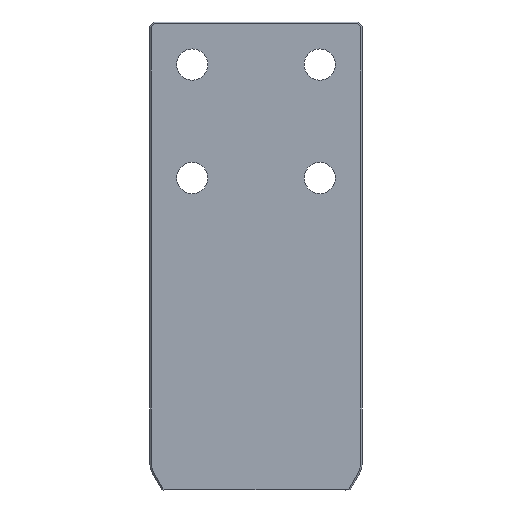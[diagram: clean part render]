
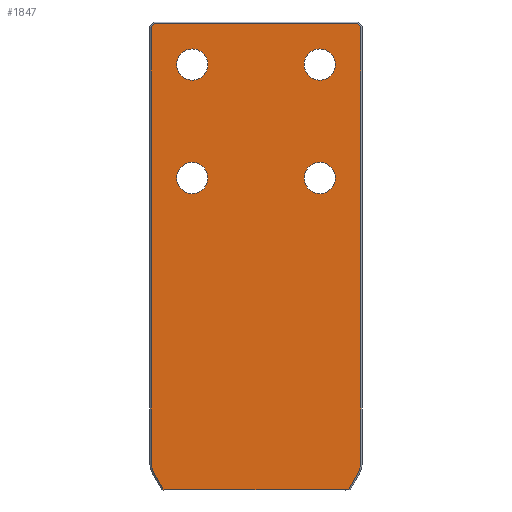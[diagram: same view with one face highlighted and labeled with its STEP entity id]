
A CAD part, front view. The second image highlights one B-rep face of the part: STEP entity #1847.
In plain terms, the highlighted planar face has unit normal (0, -1, 0).
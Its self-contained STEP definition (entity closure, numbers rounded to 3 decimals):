
#126=VERTEX_POINT(' ',#127);
#127=CARTESIAN_POINT('',(45.,-50.,-121.));
#128=VERTEX_POINT(' ',#129);
#129=CARTESIAN_POINT('',(45.,-50.,-99.));
#134=VERTEX_POINT(' ',#135);
#135=CARTESIAN_POINT('',(-45.,-50.,-41.));
#136=VERTEX_POINT(' ',#137);
#137=CARTESIAN_POINT('',(-45.,-50.,-19.));
#142=VERTEX_POINT(' ',#143);
#143=CARTESIAN_POINT('',(45.,-50.,-41.));
#144=VERTEX_POINT(' ',#145);
#145=CARTESIAN_POINT('',(45.,-50.,-19.));
#150=VERTEX_POINT(' ',#151);
#151=CARTESIAN_POINT('',(-45.,-50.,-121.));
#152=VERTEX_POINT(' ',#153);
#153=CARTESIAN_POINT('',(-45.,-50.,-99.));
#236=VERTEX_POINT(' ',#237);
#237=CARTESIAN_POINT('',(65.185,-50.,-330.));
#238=VERTEX_POINT(' ',#239);
#239=CARTESIAN_POINT('',(71.454,-50.,-319.141));
#240=VERTEX_POINT(' ',#241);
#241=CARTESIAN_POINT('',(74.,-50.,-309.641));
#242=VERTEX_POINT(' ',#243);
#243=CARTESIAN_POINT('',(74.,-50.,-140.));
#244=VERTEX_POINT(' ',#245);
#245=CARTESIAN_POINT('',(74.,-50.,-3.414));
#248=VERTEX_POINT(' ',#249);
#249=CARTESIAN_POINT('',(71.586,-50.,-1.));
#252=VERTEX_POINT(' ',#253);
#253=CARTESIAN_POINT('',(-71.586,-50.,-1.));
#256=VERTEX_POINT(' ',#257);
#257=CARTESIAN_POINT('',(-74.,-50.,-3.414));
#266=VERTEX_POINT(' ',#267);
#267=CARTESIAN_POINT('',(-65.185,-50.,-330.));
#268=VERTEX_POINT(' ',#269);
#269=CARTESIAN_POINT('',(-74.,-50.,-140.));
#270=VERTEX_POINT(' ',#271);
#271=CARTESIAN_POINT('',(-74.,-50.,-309.641));
#272=VERTEX_POINT(' ',#273);
#273=CARTESIAN_POINT('',(-71.454,-50.,-319.141));
#274=CIRCLE('',#275,11.);
#275=AXIS2_PLACEMENT_3D('',#276,#277,#278);
#276=CARTESIAN_POINT('',(45.,-50.,-110.));
#277=DIRECTION('',(0.,-1.,0.));
#278=DIRECTION('',(-1.,0.,0.));
#279=EDGE_CURVE(' ',#126,#128,#274,.T.);
#296=CIRCLE('',#297,11.);
#297=AXIS2_PLACEMENT_3D('',#298,#299,#300);
#298=CARTESIAN_POINT('',(45.,-50.,-110.));
#299=DIRECTION('',(0.,-1.,0.));
#300=DIRECTION('',(1.,0.,0.));
#301=EDGE_CURVE(' ',#128,#126,#296,.T.);
#308=CIRCLE('',#309,11.);
#309=AXIS2_PLACEMENT_3D('',#310,#311,#312);
#310=CARTESIAN_POINT('',(-45.,-50.,-30.));
#311=DIRECTION('',(0.,-1.,0.));
#312=DIRECTION('',(-1.,0.,0.));
#313=EDGE_CURVE(' ',#134,#136,#308,.T.);
#330=CIRCLE('',#331,11.);
#331=AXIS2_PLACEMENT_3D('',#332,#333,#334);
#332=CARTESIAN_POINT('',(-45.,-50.,-30.));
#333=DIRECTION('',(0.,-1.,0.));
#334=DIRECTION('',(1.,0.,0.));
#335=EDGE_CURVE(' ',#136,#134,#330,.T.);
#342=CIRCLE('',#343,11.);
#343=AXIS2_PLACEMENT_3D('',#344,#345,#346);
#344=CARTESIAN_POINT('',(45.,-50.,-30.));
#345=DIRECTION('',(0.,1.,0.));
#346=DIRECTION('',(-1.,0.,0.));
#347=EDGE_CURVE(' ',#142,#144,#342,.F.);
#364=CIRCLE('',#365,11.);
#365=AXIS2_PLACEMENT_3D('',#366,#367,#368);
#366=CARTESIAN_POINT('',(45.,-50.,-30.));
#367=DIRECTION('',(0.,1.,0.));
#368=DIRECTION('',(1.,0.,0.));
#369=EDGE_CURVE(' ',#144,#142,#364,.F.);
#376=CIRCLE('',#377,11.);
#377=AXIS2_PLACEMENT_3D('',#378,#379,#380);
#378=CARTESIAN_POINT('',(-45.,-50.,-110.));
#379=DIRECTION('',(0.,1.,0.));
#380=DIRECTION('',(-1.,0.,0.));
#381=EDGE_CURVE(' ',#150,#152,#376,.F.);
#398=CIRCLE('',#399,11.);
#399=AXIS2_PLACEMENT_3D('',#400,#401,#402);
#400=CARTESIAN_POINT('',(-45.,-50.,-110.));
#401=DIRECTION('',(0.,1.,0.));
#402=DIRECTION('',(1.,0.,0.));
#403=EDGE_CURVE(' ',#152,#150,#398,.F.);
#795=LINE('',#796,#797);
#796=CARTESIAN_POINT('',(71.454,-50.,-319.141));
#797=VECTOR('',#798,1.);
#798=DIRECTION('',(-0.5,0.,-0.866));
#799=EDGE_CURVE(' ',#238,#236,#795,.T.);
#805=CIRCLE('',#806,19.);
#806=AXIS2_PLACEMENT_3D('',#807,#808,#809);
#807=CARTESIAN_POINT('',(55.,-50.,-309.641));
#808=DIRECTION('',(0.,1.,0.));
#809=DIRECTION('',(-0.966,0.,0.259));
#810=EDGE_CURVE(' ',#240,#238,#805,.T.);
#816=LINE('',#817,#818);
#817=CARTESIAN_POINT('',(74.,-50.,-140.));
#818=VECTOR('',#819,1.);
#819=DIRECTION('',(0.,0.,-1.));
#820=EDGE_CURVE(' ',#242,#240,#816,.T.);
#826=LINE('',#827,#828);
#827=CARTESIAN_POINT('',(74.,-50.,2.657));
#828=VECTOR('',#829,1.);
#829=DIRECTION('',(0.,0.,-1.));
#830=EDGE_CURVE(' ',#244,#242,#826,.T.);
#846=LINE('',#847,#848);
#847=CARTESIAN_POINT('',(67.293,-50.,3.293));
#848=VECTOR('',#849,1.);
#849=DIRECTION('',(0.707,0.,-0.707));
#850=EDGE_CURVE(' ',#248,#244,#846,.T.);
#866=LINE('',#867,#868);
#867=CARTESIAN_POINT('',(-77.657,-50.,-1.));
#868=VECTOR('',#869,1.);
#869=DIRECTION('',(1.,0.,0.));
#870=EDGE_CURVE(' ',#252,#248,#866,.T.);
#886=LINE('',#887,#888);
#887=CARTESIAN_POINT('',(-78.293,-50.,-7.707));
#888=VECTOR('',#889,1.);
#889=DIRECTION('',(0.707,0.,0.707));
#890=EDGE_CURVE(' ',#256,#252,#886,.T.);
#937=LINE('',#938,#939);
#938=CARTESIAN_POINT('',(-75.12,-50.,-330.));
#939=VECTOR('',#940,1.);
#940=DIRECTION('',(1.,0.,0.));
#941=EDGE_CURVE(' ',#236,#266,#937,.F.);
#942=LINE('',#943,#944);
#943=CARTESIAN_POINT('',(-74.,-50.,-140.));
#944=VECTOR('',#945,1.);
#945=DIRECTION('',(0.,0.,1.));
#946=EDGE_CURVE(' ',#268,#256,#942,.T.);
#947=LINE('',#948,#949);
#948=CARTESIAN_POINT('',(-74.,-50.,-309.641));
#949=VECTOR('',#950,1.);
#950=DIRECTION('',(0.,0.,1.));
#951=EDGE_CURVE(' ',#270,#268,#947,.T.);
#952=CIRCLE('',#953,19.);
#953=AXIS2_PLACEMENT_3D('',#954,#955,#956);
#954=CARTESIAN_POINT('',(-55.,-50.,-309.641));
#955=DIRECTION('',(0.,1.,0.));
#956=DIRECTION('',(0.966,0.,0.259));
#957=EDGE_CURVE(' ',#272,#270,#952,.T.);
#958=LINE('',#959,#960);
#959=CARTESIAN_POINT('',(-62.645,-50.,-334.399));
#960=VECTOR('',#961,1.);
#961=DIRECTION('',(-0.5,0.,0.866));
#962=EDGE_CURVE(' ',#266,#272,#958,.T.);
#1812=ORIENTED_EDGE('',*,*,#946,.F.);
#1813=ORIENTED_EDGE('',*,*,#951,.F.);
#1814=ORIENTED_EDGE('',*,*,#957,.F.);
#1815=ORIENTED_EDGE('',*,*,#962,.F.);
#1816=ORIENTED_EDGE('',*,*,#941,.F.);
#1817=ORIENTED_EDGE('',*,*,#799,.F.);
#1818=ORIENTED_EDGE('',*,*,#810,.F.);
#1819=ORIENTED_EDGE('',*,*,#820,.F.);
#1820=ORIENTED_EDGE('',*,*,#830,.F.);
#1821=ORIENTED_EDGE('',*,*,#850,.F.);
#1822=ORIENTED_EDGE('',*,*,#870,.F.);
#1823=ORIENTED_EDGE('',*,*,#890,.F.);
#1824=EDGE_LOOP('',(#1812,#1813,#1814,#1815,#1816,#1817,#1818,#1819,#1820,#1821,#1822,#1823));
#1825=FACE_OUTER_BOUND('',#1824,.T.);
#1826=ORIENTED_EDGE('',*,*,#403,.F.);
#1827=ORIENTED_EDGE('',*,*,#381,.F.);
#1828=EDGE_LOOP('',(#1826,#1827));
#1829=FACE_BOUND('',#1828,.T.);
#1830=ORIENTED_EDGE('',*,*,#369,.F.);
#1831=ORIENTED_EDGE('',*,*,#347,.F.);
#1832=EDGE_LOOP('',(#1830,#1831));
#1833=FACE_BOUND('',#1832,.T.);
#1834=ORIENTED_EDGE('',*,*,#335,.F.);
#1835=ORIENTED_EDGE('',*,*,#313,.F.);
#1836=EDGE_LOOP('',(#1834,#1835));
#1837=FACE_BOUND('',#1836,.T.);
#1838=ORIENTED_EDGE('',*,*,#301,.F.);
#1839=ORIENTED_EDGE('',*,*,#279,.F.);
#1840=EDGE_LOOP('',(#1838,#1839));
#1841=FACE_BOUND('',#1840,.T.);
#1842=PLANE('',#1843);
#1843=AXIS2_PLACEMENT_3D('',#1844,#1845,#1846);
#1844=CARTESIAN_POINT('',(0.,-50.,0.));
#1845=DIRECTION('',(0.,-1.,0.));
#1846=DIRECTION('',(0.,0.,-1.));
#1847=ADVANCED_FACE('',(#1825,#1829,#1833,#1837,#1841),#1842,.T.);
